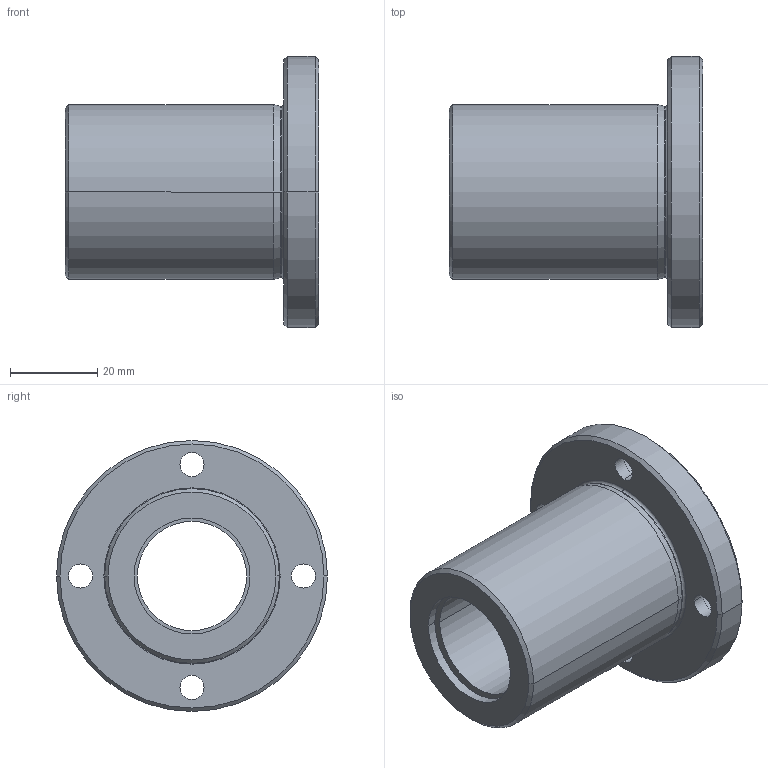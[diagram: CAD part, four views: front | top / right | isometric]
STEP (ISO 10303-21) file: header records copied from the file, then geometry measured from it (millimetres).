
FILE_DESCRIPTION (( 'STEP AP214' ), '1' );
FILE_NAME ('2.7062 Lineaarilaakeri LMEF25UU.STEP', '2024-06-17T11:19:17', ( '' ), ( '' ), 'SwSTEP 2.0', 'SolidWorks 2024', '' );
FILE_SCHEMA (( 'AUTOMOTIVE_DESIGN' ));
Length unit declared in the file: millimetre
Products named in the file (1): 2.7062 Lineaarilaakeri LMEF25UU
Bounding box: 58 x 62 x 62 mm (x, y, z)
Volume: 56293.9 mm3; surface area: 18411.1 mm2
Topology: 1 solids, 1 shells, 53 faces, 116 edges, 74 vertices
Faces by surface type: cylinder 30, plane 11, cone 8, torus 4
Entity records: 1531 total; most frequent: DIRECTION 302, CARTESIAN_POINT 244, ORIENTED_EDGE 232, AXIS2_PLACEMENT_3D 132, EDGE_CURVE 116, CIRCLE 78, VERTEX_POINT 74, EDGE_LOOP 72
